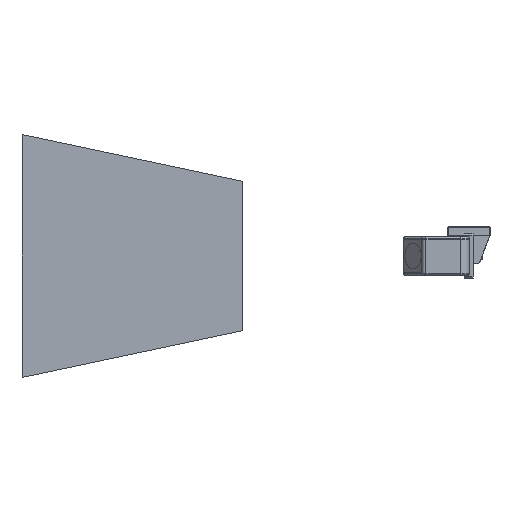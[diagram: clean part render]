
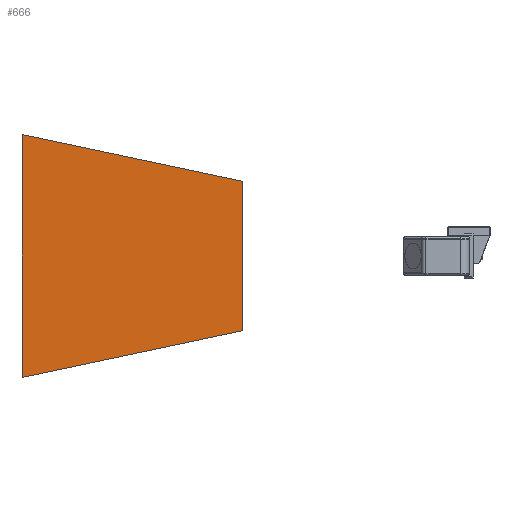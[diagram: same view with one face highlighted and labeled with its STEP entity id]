
A CAD part, front view. The second image highlights one B-rep face of the part: STEP entity #666.
In plain terms, the highlighted planar face has unit normal (0, -1, 0) as drawn and (0, 0, -1) by its records, which use the part's own axes.
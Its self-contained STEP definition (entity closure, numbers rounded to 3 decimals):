
#572 = FACE_OUTER_BOUND ( 'NONE', #15017, .T. ) ;
#666 = ADVANCED_FACE ( 'NONE', ( #572 ), #24589, .T. ) ;
#2001 = DIRECTION ( 'NONE',  ( 0.207, -0.978, 0. ) ) ;
#3400 = DIRECTION ( 'NONE',  ( 0., 0., -1. ) ) ;
#4305 = DIRECTION ( 'NONE',  ( 0.207, 0.978, 0. ) ) ;
#5609 = DIRECTION ( 'NONE',  ( 1., 0., 0. ) ) ;
#5726 = ORIENTED_EDGE ( 'NONE', *, *, #8699, .F. ) ;
#7423 = LINE ( 'NONE', #36202, #51261 ) ;
#8539 = CARTESIAN_POINT ( 'NONE',  ( 165., 138.353, 0. ) ) ;
#8699 = EDGE_CURVE ( 'NONE', #38408, #29550, #7423, .T. ) ;
#10239 = LINE ( 'NONE', #47956, #33448 ) ;
#11978 = DIRECTION ( 'NONE',  ( -1., 0., 0. ) ) ;
#12666 = CARTESIAN_POINT ( 'NONE',  ( -165., 138.353, 0. ) ) ;
#14274 = EDGE_CURVE ( 'NONE', #41132, #38408, #21537, .T. ) ;
#14873 = LINE ( 'NONE', #29630, #22219 ) ;
#15017 = EDGE_LOOP ( 'NONE', ( #5726, #20706, #31136, #27181 ) ) ;
#15022 = VERTEX_POINT ( 'NONE', #30236 ) ;
#20690 = CARTESIAN_POINT ( 'NONE',  ( 0., 0., 0. ) ) ;
#20706 = ORIENTED_EDGE ( 'NONE', *, *, #14274, .F. ) ;
#21537 = LINE ( 'NONE', #12666, #54045 ) ;
#22219 = VECTOR ( 'NONE', #4305, 1000. ) ;
#24589 = PLANE ( 'NONE',  #33925 ) ;
#27181 = ORIENTED_EDGE ( 'NONE', *, *, #40738, .F. ) ;
#29550 = VERTEX_POINT ( 'NONE', #38665 ) ;
#29630 = CARTESIAN_POINT ( 'NONE',  ( 165., 138.353, 0. ) ) ;
#30236 = CARTESIAN_POINT ( 'NONE',  ( 101.5, -161.647, 0. ) ) ;
#31136 = ORIENTED_EDGE ( 'NONE', *, *, #35250, .F. ) ;
#33448 = VECTOR ( 'NONE', #5609, 1000. ) ;
#33925 = AXIS2_PLACEMENT_3D ( 'NONE', #20690, #3400, #11978 ) ;
#35250 = EDGE_CURVE ( 'NONE', #15022, #41132, #14873, .T. ) ;
#36202 = CARTESIAN_POINT ( 'NONE',  ( -101.5, -161.647, 0. ) ) ;
#37353 = CARTESIAN_POINT ( 'NONE',  ( -165., 138.353, 0. ) ) ;
#38408 = VERTEX_POINT ( 'NONE', #37353 ) ;
#38665 = CARTESIAN_POINT ( 'NONE',  ( -101.5, -161.647, 0. ) ) ;
#38704 = DIRECTION ( 'NONE',  ( -1., 0., 0. ) ) ;
#40738 = EDGE_CURVE ( 'NONE', #29550, #15022, #10239, .T. ) ;
#41132 = VERTEX_POINT ( 'NONE', #8539 ) ;
#47956 = CARTESIAN_POINT ( 'NONE',  ( 101.5, -161.647, 0. ) ) ;
#51261 = VECTOR ( 'NONE', #2001, 1000. ) ;
#54045 = VECTOR ( 'NONE', #38704, 1000. ) ;
